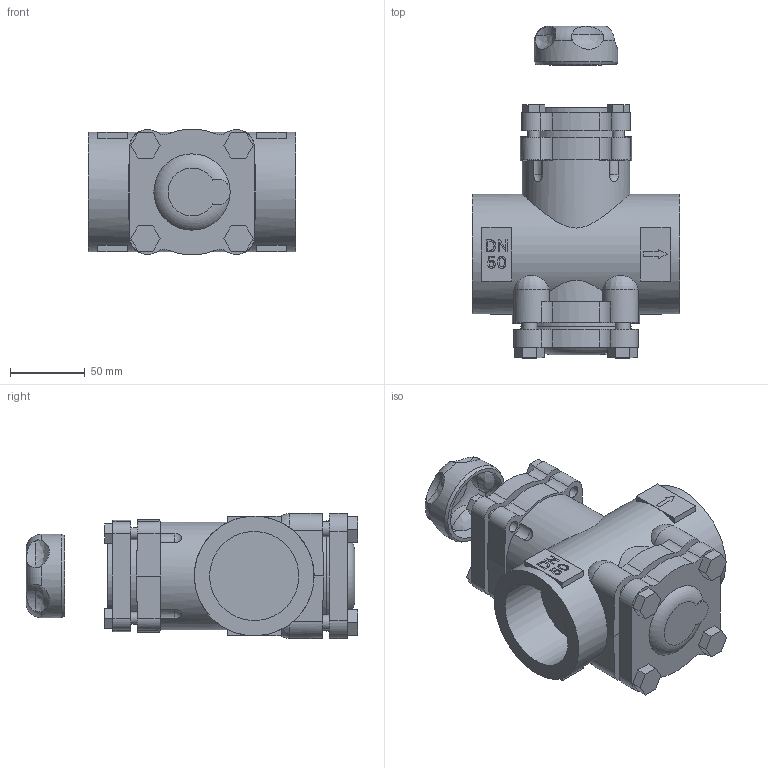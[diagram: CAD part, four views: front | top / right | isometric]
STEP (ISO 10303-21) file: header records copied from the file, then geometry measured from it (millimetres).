
FILE_DESCRIPTION(/* description */ (''),/* implementation_level */ '2;1');
FILE_NAME(/* name */ 'U:/AirCom-Produktdokumentation/Druckregler/RU/Zeichnungen/CAD-Aircom/3D/B-RUH-16x.step',/* time_stamp */ '2022-06-08T12:08:44+02:00',/* author */ (''),/* organization */ (''),/* preprocessor_version */ 'ST-DEVELOPER v19',/* originating_system */ 'Autodesk Translation Framework v11.7.0.108',/* authorisation */ '');
FILE_SCHEMA (('AUTOMOTIVE_DESIGN { 1 0 10303 214 3 1 1 }'));
Length unit declared in the file: millimetre
Products named in the file (1): 1
Bounding box: 139 x 221.8 x 83.9 mm (x, y, z)
Volume: 1103704.8 mm3; surface area: 112950.8 mm2
Topology: 1 solids, 1 shells, 225 faces, 593 edges, 404 vertices
Faces by surface type: plane 129, cylinder 72, bspline 9, cone 8, sphere 4, torus 3
Full cylindrical faces by diameter (mm): 8 x8, 10 x4, 53 x1, 56 x1, 59.614 x2, 64 x1, 69.8 x1, 72 x1, 80 x1
Entity records: 7957 total; most frequent: CARTESIAN_POINT 2235, ORIENTED_EDGE 1186, DIRECTION 1165, EDGE_CURVE 593, AXIS2_PLACEMENT_3D 412, VERTEX_POINT 404, LINE 341, VECTOR 341
